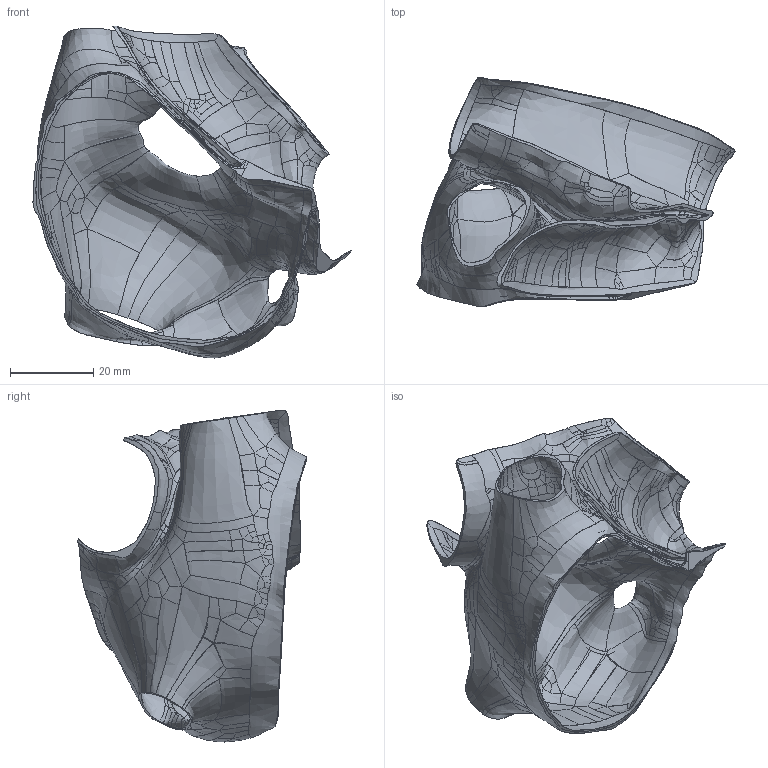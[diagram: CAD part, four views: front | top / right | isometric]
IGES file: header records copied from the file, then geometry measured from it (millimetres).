
Global section: file name: C:\FDA Main\FDA-Septal-Models\0129542\0129542.phase.40.igs; native system: Rhinoceros ( Mar  9 2011 ); preprocessor: Trout Lake IGES 012 Mar  9 2011; date: 120503.153700; units: millimetre
Bounding box: 76.32 x 55.07 x 79.67 mm (x, y, z)
Surface area: 23919.8 mm2 (no closed solid volume)
Topology: 0 solids, 0 shells, 1040 faces, 4157 edges, 4154 vertices
Faces by surface type: bspline 1040
